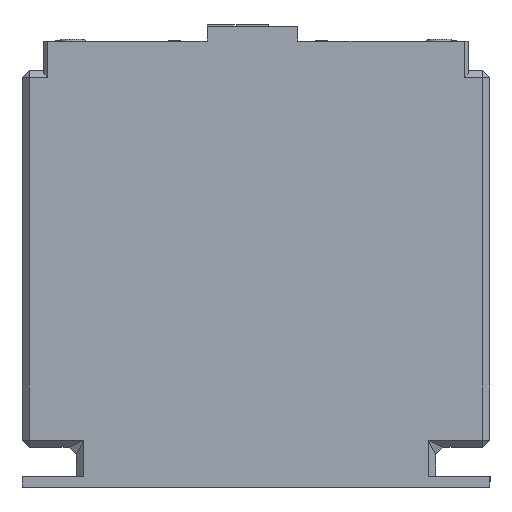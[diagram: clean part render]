
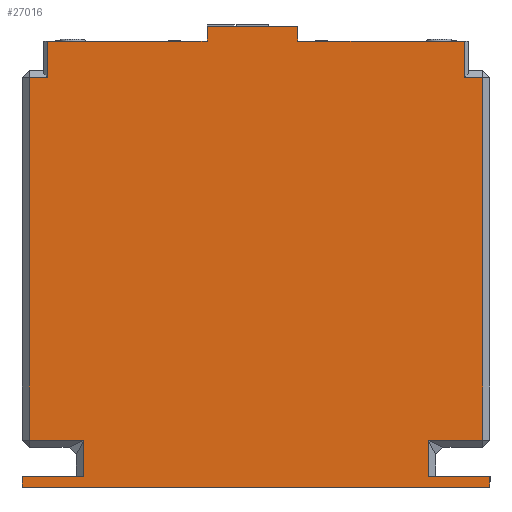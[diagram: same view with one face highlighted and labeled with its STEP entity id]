
A CAD part, left-side view. The second image highlights one B-rep face of the part: STEP entity #27016.
In plain terms, the highlighted planar face has unit normal (-1, 0, 0).
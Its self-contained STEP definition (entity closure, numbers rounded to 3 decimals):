
#677=LINE('',#34856,#3382);
#2601=LINE('',#46387,#5306);
#2625=LINE('',#46442,#5330);
#2637=LINE('',#46466,#5342);
#2638=LINE('',#46469,#5343);
#2639=LINE('',#46471,#5344);
#2640=LINE('',#46472,#5345);
#2641=LINE('',#46474,#5346);
#2642=LINE('',#46476,#5347);
#2643=LINE('',#46478,#5348);
#2644=LINE('',#46480,#5349);
#2645=LINE('',#46482,#5350);
#2646=LINE('',#46484,#5351);
#2647=LINE('',#46486,#5352);
#2648=LINE('',#46488,#5353);
#2649=LINE('',#46490,#5354);
#2650=LINE('',#46492,#5355);
#2651=LINE('',#46494,#5356);
#2652=LINE('',#46496,#5357);
#2653=LINE('',#46497,#5358);
#3382=VECTOR('',#29181,10.);
#5306=VECTOR('',#32353,10.);
#5330=VECTOR('',#32389,10.);
#5342=VECTOR('',#32409,10.);
#5343=VECTOR('',#32412,10.);
#5344=VECTOR('',#32413,10.);
#5345=VECTOR('',#32414,10.);
#5346=VECTOR('',#32415,10.);
#5347=VECTOR('',#32416,10.);
#5348=VECTOR('',#32417,10.);
#5349=VECTOR('',#32418,10.);
#5350=VECTOR('',#32419,10.);
#5351=VECTOR('',#32420,10.);
#5352=VECTOR('',#32421,10.);
#5353=VECTOR('',#32422,10.);
#5354=VECTOR('',#32423,10.);
#5355=VECTOR('',#32424,10.);
#5356=VECTOR('',#32425,10.);
#5357=VECTOR('',#32426,10.);
#5358=VECTOR('',#32427,10.);
#6647=PLANE('',#28222);
#9112=FACE_OUTER_BOUND('',#10674,.T.);
#10674=EDGE_LOOP('',(#23528,#23529,#23530,#23531,#23532,#23533,#23534,#23535,
#23536,#23537,#23538,#23539,#23540,#23541,#23542,#23543,#23544,#23545,#23546,
#23547));
#11642=VERTEX_POINT('',#34853);
#11643=VERTEX_POINT('',#34855);
#13417=VERTEX_POINT('',#46384);
#13418=VERTEX_POINT('',#46386);
#13443=VERTEX_POINT('',#46441);
#13451=VERTEX_POINT('',#46464);
#13452=VERTEX_POINT('',#46468);
#13453=VERTEX_POINT('',#46470);
#13454=VERTEX_POINT('',#46473);
#13455=VERTEX_POINT('',#46475);
#13456=VERTEX_POINT('',#46477);
#13457=VERTEX_POINT('',#46479);
#13458=VERTEX_POINT('',#46481);
#13459=VERTEX_POINT('',#46483);
#13460=VERTEX_POINT('',#46485);
#13461=VERTEX_POINT('',#46487);
#13462=VERTEX_POINT('',#46489);
#13463=VERTEX_POINT('',#46491);
#13464=VERTEX_POINT('',#46493);
#13465=VERTEX_POINT('',#46495);
#14284=EDGE_CURVE('',#11643,#11642,#677,.T.);
#16973=EDGE_CURVE('',#13418,#13417,#2601,.T.);
#17001=EDGE_CURVE('',#13418,#13443,#2625,.T.);
#17013=EDGE_CURVE('',#13451,#11642,#2637,.T.);
#17014=EDGE_CURVE('',#13452,#13417,#2638,.T.);
#17015=EDGE_CURVE('',#13453,#13452,#2639,.T.);
#17016=EDGE_CURVE('',#13453,#11643,#2640,.T.);
#17017=EDGE_CURVE('',#13454,#13451,#2641,.T.);
#17018=EDGE_CURVE('',#13455,#13454,#2642,.T.);
#17019=EDGE_CURVE('',#13456,#13455,#2643,.T.);
#17020=EDGE_CURVE('',#13457,#13456,#2644,.T.);
#17021=EDGE_CURVE('',#13457,#13458,#2645,.T.);
#17022=EDGE_CURVE('',#13459,#13458,#2646,.T.);
#17023=EDGE_CURVE('',#13459,#13460,#2647,.T.);
#17024=EDGE_CURVE('',#13460,#13461,#2648,.T.);
#17025=EDGE_CURVE('',#13461,#13462,#2649,.T.);
#17026=EDGE_CURVE('',#13463,#13462,#2650,.T.);
#17027=EDGE_CURVE('',#13464,#13463,#2651,.T.);
#17028=EDGE_CURVE('',#13465,#13464,#2652,.T.);
#17029=EDGE_CURVE('',#13443,#13465,#2653,.T.);
#23528=ORIENTED_EDGE('',*,*,#17001,.F.);
#23529=ORIENTED_EDGE('',*,*,#16973,.T.);
#23530=ORIENTED_EDGE('',*,*,#17014,.F.);
#23531=ORIENTED_EDGE('',*,*,#17015,.F.);
#23532=ORIENTED_EDGE('',*,*,#17016,.T.);
#23533=ORIENTED_EDGE('',*,*,#14284,.T.);
#23534=ORIENTED_EDGE('',*,*,#17013,.F.);
#23535=ORIENTED_EDGE('',*,*,#17017,.F.);
#23536=ORIENTED_EDGE('',*,*,#17018,.F.);
#23537=ORIENTED_EDGE('',*,*,#17019,.F.);
#23538=ORIENTED_EDGE('',*,*,#17020,.F.);
#23539=ORIENTED_EDGE('',*,*,#17021,.T.);
#23540=ORIENTED_EDGE('',*,*,#17022,.F.);
#23541=ORIENTED_EDGE('',*,*,#17023,.T.);
#23542=ORIENTED_EDGE('',*,*,#17024,.T.);
#23543=ORIENTED_EDGE('',*,*,#17025,.T.);
#23544=ORIENTED_EDGE('',*,*,#17026,.F.);
#23545=ORIENTED_EDGE('',*,*,#17027,.F.);
#23546=ORIENTED_EDGE('',*,*,#17028,.F.);
#23547=ORIENTED_EDGE('',*,*,#17029,.F.);
#27016=ADVANCED_FACE('',(#9112),#6647,.T.);
#28222=AXIS2_PLACEMENT_3D('',#46467,#32410,#32411);
#29181=DIRECTION('',(0.,1.,0.));
#32353=DIRECTION('',(0.,1.,0.));
#32389=DIRECTION('',(0.,0.,-1.));
#32409=DIRECTION('',(0.,0.,1.));
#32410=DIRECTION('center_axis',(-1.,0.,0.));
#32411=DIRECTION('ref_axis',(0.,-1.,0.));
#32412=DIRECTION('',(0.,0.,-1.));
#32413=DIRECTION('',(0.,-1.,0.));
#32414=DIRECTION('',(0.,0.,-1.));
#32415=DIRECTION('',(0.,-1.,0.));
#32416=DIRECTION('',(0.,0.,1.));
#32417=DIRECTION('',(0.,1.,0.));
#32418=DIRECTION('',(0.,0.,1.));
#32419=DIRECTION('',(0.,1.,0.));
#32420=DIRECTION('',(0.,0.,1.));
#32421=DIRECTION('',(0.,-1.,0.));
#32422=DIRECTION('',(0.,0.,1.));
#32423=DIRECTION('',(0.,1.,0.));
#32424=DIRECTION('',(0.,0.,-1.));
#32425=DIRECTION('',(0.,1.,0.));
#32426=DIRECTION('',(0.,0.,-1.));
#32427=DIRECTION('',(0.,-1.,0.));
#34853=CARTESIAN_POINT('',(0.,122.,123.));
#34855=CARTESIAN_POINT('',(0.,78.,123.));
#34856=CARTESIAN_POINT('',(0.,96.75,123.));
#46384=CARTESIAN_POINT('',(0.,53.,123.));
#46386=CARTESIAN_POINT('',(0.,7.,123.));
#46387=CARTESIAN_POINT('',(0.,96.75,123.));
#46441=CARTESIAN_POINT('',(0.,7.,113.));
#46442=CARTESIAN_POINT('',(0.,7.,63.5));
#46464=CARTESIAN_POINT('',(0.,122.,113.));
#46466=CARTESIAN_POINT('',(0.,122.,63.5));
#46467=CARTESIAN_POINT('Origin',(0.,129.,0.));
#46468=CARTESIAN_POINT('',(0.,53.,127.));
#46469=CARTESIAN_POINT('',(0.,53.,127.));
#46470=CARTESIAN_POINT('',(0.,78.,127.));
#46471=CARTESIAN_POINT('',(0.,78.,127.));
#46472=CARTESIAN_POINT('',(0.,78.,127.));
#46473=CARTESIAN_POINT('',(0.,127.,113.));
#46474=CARTESIAN_POINT('',(0.,127.324,113.));
#46475=CARTESIAN_POINT('',(0.,127.,13.));
#46476=CARTESIAN_POINT('',(0.,127.,0.));
#46477=CARTESIAN_POINT('',(0.,112.,13.));
#46478=CARTESIAN_POINT('',(0.,129.,13.));
#46479=CARTESIAN_POINT('',(0.,112.,3.));
#46480=CARTESIAN_POINT('',(0.,112.,3.5));
#46481=CARTESIAN_POINT('',(0.,129.,3.));
#46482=CARTESIAN_POINT('',(0.,129.,3.));
#46483=CARTESIAN_POINT('',(0.,129.,0.));
#46484=CARTESIAN_POINT('',(0.,129.,0.));
#46485=CARTESIAN_POINT('',(0.,0.,0.));
#46486=CARTESIAN_POINT('',(0.,129.,0.));
#46487=CARTESIAN_POINT('',(0.,0.,3.));
#46488=CARTESIAN_POINT('',(0.,0.,0.));
#46489=CARTESIAN_POINT('',(0.,17.,3.));
#46490=CARTESIAN_POINT('',(0.,64.5,3.));
#46491=CARTESIAN_POINT('',(0.,17.,13.));
#46492=CARTESIAN_POINT('',(0.,17.,3.5));
#46493=CARTESIAN_POINT('',(0.,2.,13.));
#46494=CARTESIAN_POINT('',(0.,64.5,13.));
#46495=CARTESIAN_POINT('',(0.,2.,113.));
#46496=CARTESIAN_POINT('',(0.,2.,0.));
#46497=CARTESIAN_POINT('',(0.,66.176,113.));
